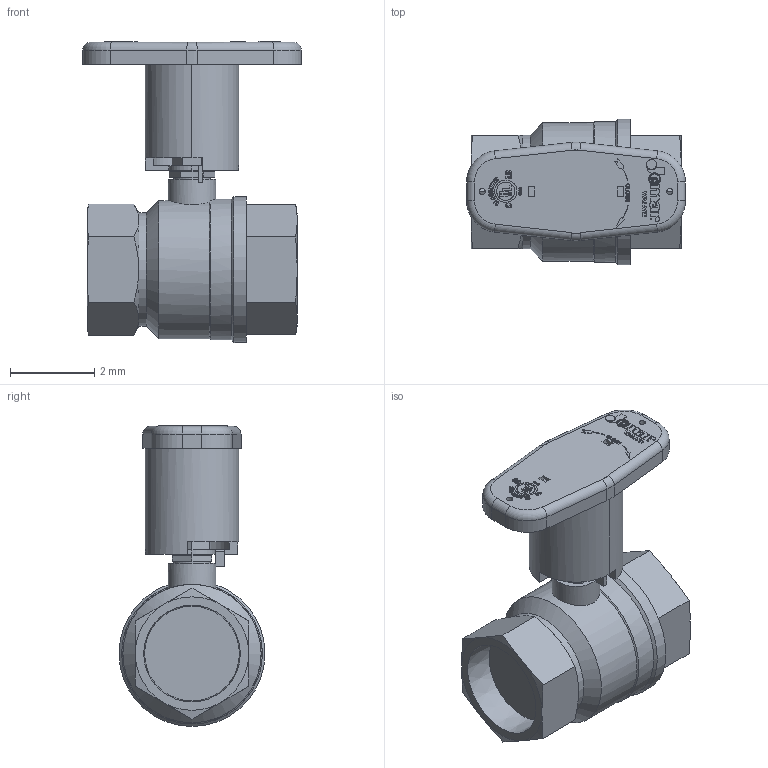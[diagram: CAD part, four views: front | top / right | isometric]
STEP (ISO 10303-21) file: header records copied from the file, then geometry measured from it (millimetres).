
FILE_DESCRIPTION(('Open CASCADE Model'),'2;1');
FILE_NAME('Open CASCADE Shape Model','2021-10-12T08:27:50',('Author'),( 'Open CASCADE'),'Open CASCADE STEP processor 7.3','Open CASCADE 7.3' ,'Unknown');
FILE_SCHEMA(('AUTOMOTIVE_DESIGN { 1 0 10303 214 1 1 1 1 }'));
Products named in the file (1): Open CASCADE STEP translator 7.3 1
Bounding box: 5.19 x 3.46 x 7.15 mm (x, y, z)
Volume: 43.8 mm3; surface area: 161.7 mm2
Topology: 1 solids, 1 shells, 2652 faces, 7707 edges, 5122 vertices
Faces by surface type: plane 2503, cylinder 114, cone 23, torus 6, extrusion 6
Full cylindrical faces by diameter (mm): 0.028 x1, 0.032 x1, 0.083 x1, 0.148 x2, 0.232 x1, 0.659 x1, 0.66 x1, 0.864 x1, 1.135 x1, 1.79 x1, 1.847 x1, 2.694 x1, 3.284 x1, 3.344 x1, 3.464 x1
Entity records: 188562 total; most frequent: CARTESIAN_POINT 34168, DIRECTION 28396, VECTOR 22373, LINE 22367, ORIENTED_EDGE 15422, PCURVE 15414, DEFINITIONAL_REPRESENTATION 15414, EDGE_CURVE 7707
